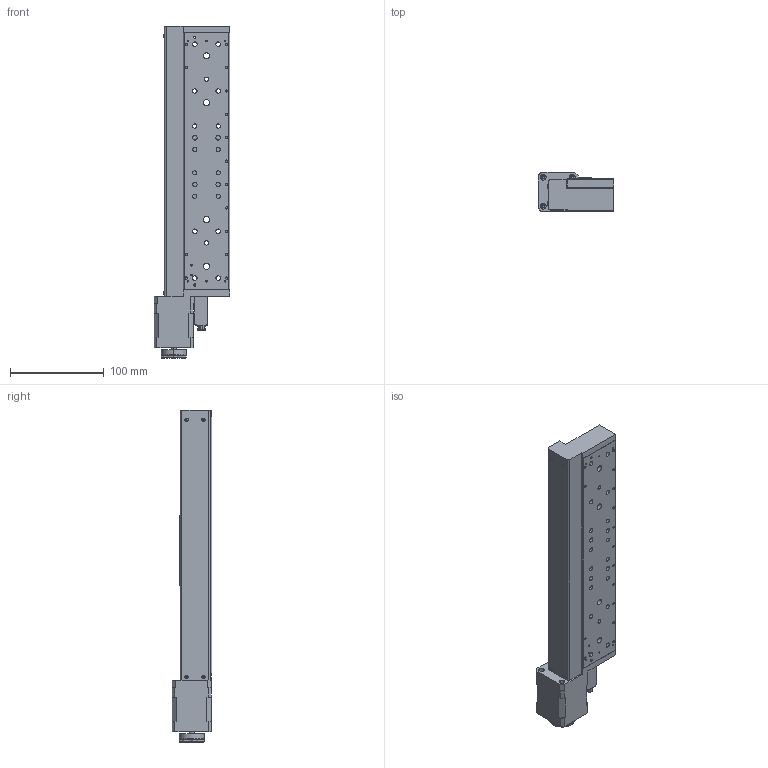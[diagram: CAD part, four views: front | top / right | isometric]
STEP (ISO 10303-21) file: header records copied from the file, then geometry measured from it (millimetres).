
FILE_DESCRIPTION (( 'STEP AP203' ), '1' );
FILE_NAME ('8MT50-200.STEP', '2010-10-08T06:54:05', ( 'Darius' ), ( '' ), 'SwSTEP 2.0', 'SolidWorks 2003240', '' );
FILE_SCHEMA (( 'CONFIG_CONTROL_DESIGN' ));
Products named in the file (1): 8MT50-200
Bounding box: 81 x 42.5 x 355 mm (x, y, z)
Volume: 600626.4 mm3; surface area: 128582.7 mm2
Topology: 1 solids, 39 shells, 2606 faces, 6703 edges, 4256 vertices
Faces by surface type: cylinder 1050, plane 1006, cone 302, bspline 248
Entity records: 86073 total; most frequent: CARTESIAN_POINT 24089, ORIENTED_EDGE 13150, DIRECTION 12619, EDGE_CURVE 6575, AXIS2_PLACEMENT_3D 4824, VERTEX_POINT 4256, EDGE_LOOP 2975, LINE 2971
